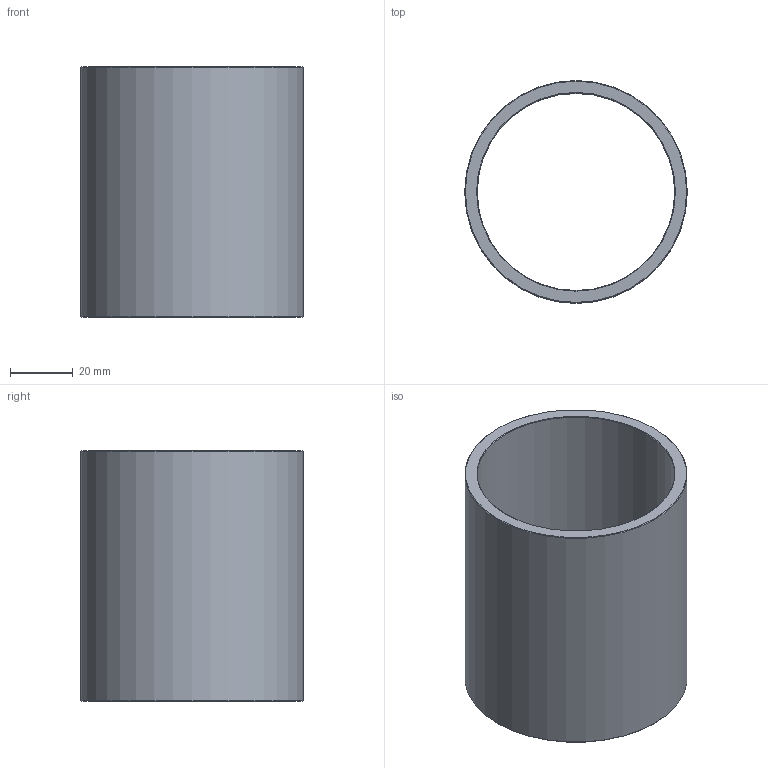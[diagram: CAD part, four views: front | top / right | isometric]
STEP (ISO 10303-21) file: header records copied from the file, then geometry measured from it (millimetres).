
FILE_DESCRIPTION(('STEP AP203'),'1');
FILE_NAME('C:/Users/Rodrigo/Desktop/GA4.063.080-1.step','2016-11-08T13:36:00',(' '),(' '),'Spatial InterOp 3D',' ',' ');
FILE_SCHEMA(('CONFIG_CONTROL_DESIGN'));
Length unit declared in the file: millimetre
Products named in the file (1): 1
Bounding box: 71 x 71 x 80 mm (x, y, z)
Volume: 67338.9 mm3; surface area: 35263.1 mm2
Topology: 1 solids, 1 shells, 8 faces, 14 edges, 8 vertices
Faces by surface type: cone 4, cylinder 2, plane 2
Full cylindrical faces by diameter (mm): 63 x1, 71 x1
Entity records: 212 total; most frequent: DIRECTION 34, CARTESIAN_POINT 25, AXIS2_PLACEMENT_3D 17, EDGE_LOOP 16, ORIENTED_EDGE 16, FACE_OUTER_BOUND 10, ADVANCED_FACE 8, EDGE_CURVE 8
